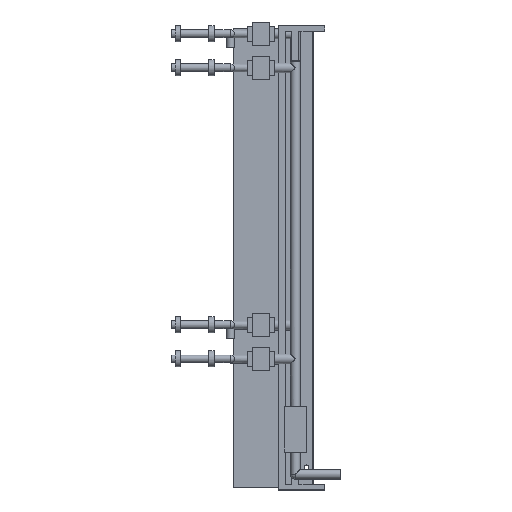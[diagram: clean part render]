
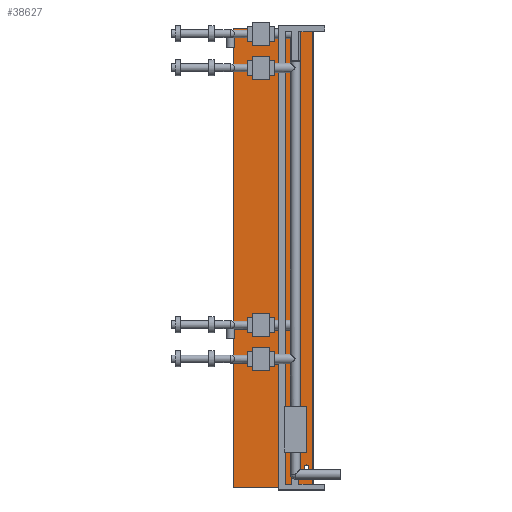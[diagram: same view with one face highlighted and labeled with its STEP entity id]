
A CAD part, top view. The second image highlights one B-rep face of the part: STEP entity #38627.
In plain terms, the highlighted planar face has unit normal (0, 0, 1).
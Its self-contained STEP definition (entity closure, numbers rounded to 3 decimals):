
#38176 = PLANE('',#38177);
#38177 = AXIS2_PLACEMENT_3D('',#38178,#38179,#38180);
#38178 = CARTESIAN_POINT('',(890.5,-788.5,1119.5));
#38179 = DIRECTION('',(-0.,1.,0.));
#38180 = DIRECTION('',(0.,0.,1.));
#38202 = PLANE('',#38203);
#38203 = AXIS2_PLACEMENT_3D('',#38204,#38205,#38206);
#38204 = CARTESIAN_POINT('',(890.5,-788.5,1119.5));
#38205 = DIRECTION('',(1.,0.,-0.));
#38206 = DIRECTION('',(0.,0.,1.));
#38228 = PLANE('',#38229);
#38229 = AXIS2_PLACEMENT_3D('',#38230,#38231,#38232);
#38230 = CARTESIAN_POINT('',(890.5,1228.5,1119.5));
#38231 = DIRECTION('',(-0.,1.,0.));
#38232 = DIRECTION('',(0.,0.,1.));
#38252 = PLANE('',#38253);
#38253 = AXIS2_PLACEMENT_3D('',#38254,#38255,#38256);
#38254 = CARTESIAN_POINT('',(1237.5,-788.5,1119.5));
#38255 = DIRECTION('',(1.,0.,-0.));
#38256 = DIRECTION('',(0.,0.,1.));
#38358 = CYLINDRICAL_SURFACE('',#38359,10.);
#38359 = AXIS2_PLACEMENT_3D('',#38360,#38361,#38362);
#38360 = CARTESIAN_POINT('',(1210.,-700.,1117.));
#38361 = DIRECTION('',(0.,0.,1.));
#38362 = DIRECTION('',(1.,0.,-0.));
#38381 = VERTEX_POINT('',#38382);
#38382 = CARTESIAN_POINT('',(1237.5,-788.5,1119.5));
#38403 = EDGE_CURVE('',#38404,#38381,#38406,.T.);
#38404 = VERTEX_POINT('',#38405);
#38405 = CARTESIAN_POINT('',(890.5,-788.5,1119.5));
#38406 = SURFACE_CURVE('',#38407,(#38411,#38418),.PCURVE_S1.);
#38407 = LINE('',#38408,#38409);
#38408 = CARTESIAN_POINT('',(890.5,-788.5,1119.5));
#38409 = VECTOR('',#38410,1.);
#38410 = DIRECTION('',(1.,0.,-0.));
#38411 = PCURVE('',#38176,#38412);
#38412 = DEFINITIONAL_REPRESENTATION('',(#38413),#38417);
#38413 = LINE('',#38414,#38415);
#38414 = CARTESIAN_POINT('',(0.,0.));
#38415 = VECTOR('',#38416,1.);
#38416 = DIRECTION('',(0.,1.));
#38417 = ( GEOMETRIC_REPRESENTATION_CONTEXT(2) 
PARAMETRIC_REPRESENTATION_CONTEXT() REPRESENTATION_CONTEXT('2D SPACE',''
  ) );
#38418 = PCURVE('',#38419,#38424);
#38419 = PLANE('',#38420);
#38420 = AXIS2_PLACEMENT_3D('',#38421,#38422,#38423);
#38421 = CARTESIAN_POINT('',(890.5,-788.5,1119.5));
#38422 = DIRECTION('',(0.,0.,1.));
#38423 = DIRECTION('',(1.,0.,-0.));
#38424 = DEFINITIONAL_REPRESENTATION('',(#38425),#38429);
#38425 = LINE('',#38426,#38427);
#38426 = CARTESIAN_POINT('',(0.,0.));
#38427 = VECTOR('',#38428,1.);
#38428 = DIRECTION('',(1.,0.));
#38429 = ( GEOMETRIC_REPRESENTATION_CONTEXT(2) 
PARAMETRIC_REPRESENTATION_CONTEXT() REPRESENTATION_CONTEXT('2D SPACE',''
  ) );
#38457 = EDGE_CURVE('',#38381,#38458,#38460,.T.);
#38458 = VERTEX_POINT('',#38459);
#38459 = CARTESIAN_POINT('',(1237.5,1228.5,1119.5));
#38460 = SURFACE_CURVE('',#38461,(#38465,#38472),.PCURVE_S1.);
#38461 = LINE('',#38462,#38463);
#38462 = CARTESIAN_POINT('',(1237.5,-788.5,1119.5));
#38463 = VECTOR('',#38464,1.);
#38464 = DIRECTION('',(-0.,1.,0.));
#38465 = PCURVE('',#38252,#38466);
#38466 = DEFINITIONAL_REPRESENTATION('',(#38467),#38471);
#38467 = LINE('',#38468,#38469);
#38468 = CARTESIAN_POINT('',(0.,0.));
#38469 = VECTOR('',#38470,1.);
#38470 = DIRECTION('',(0.,-1.));
#38471 = ( GEOMETRIC_REPRESENTATION_CONTEXT(2) 
PARAMETRIC_REPRESENTATION_CONTEXT() REPRESENTATION_CONTEXT('2D SPACE',''
  ) );
#38472 = PCURVE('',#38419,#38473);
#38473 = DEFINITIONAL_REPRESENTATION('',(#38474),#38478);
#38474 = LINE('',#38475,#38476);
#38475 = CARTESIAN_POINT('',(347.,0.));
#38476 = VECTOR('',#38477,1.);
#38477 = DIRECTION('',(0.,1.));
#38478 = ( GEOMETRIC_REPRESENTATION_CONTEXT(2) 
PARAMETRIC_REPRESENTATION_CONTEXT() REPRESENTATION_CONTEXT('2D SPACE',''
  ) );
#38506 = EDGE_CURVE('',#38507,#38458,#38509,.T.);
#38507 = VERTEX_POINT('',#38508);
#38508 = CARTESIAN_POINT('',(890.5,1228.5,1119.5));
#38509 = SURFACE_CURVE('',#38510,(#38514,#38521),.PCURVE_S1.);
#38510 = LINE('',#38511,#38512);
#38511 = CARTESIAN_POINT('',(890.5,1228.5,1119.5));
#38512 = VECTOR('',#38513,1.);
#38513 = DIRECTION('',(1.,0.,-0.));
#38514 = PCURVE('',#38228,#38515);
#38515 = DEFINITIONAL_REPRESENTATION('',(#38516),#38520);
#38516 = LINE('',#38517,#38518);
#38517 = CARTESIAN_POINT('',(0.,0.));
#38518 = VECTOR('',#38519,1.);
#38519 = DIRECTION('',(0.,1.));
#38520 = ( GEOMETRIC_REPRESENTATION_CONTEXT(2) 
PARAMETRIC_REPRESENTATION_CONTEXT() REPRESENTATION_CONTEXT('2D SPACE',''
  ) );
#38521 = PCURVE('',#38419,#38522);
#38522 = DEFINITIONAL_REPRESENTATION('',(#38523),#38527);
#38523 = LINE('',#38524,#38525);
#38524 = CARTESIAN_POINT('',(0.,2017.));
#38525 = VECTOR('',#38526,1.);
#38526 = DIRECTION('',(1.,0.));
#38527 = ( GEOMETRIC_REPRESENTATION_CONTEXT(2) 
PARAMETRIC_REPRESENTATION_CONTEXT() REPRESENTATION_CONTEXT('2D SPACE',''
  ) );
#38555 = EDGE_CURVE('',#38404,#38507,#38556,.T.);
#38556 = SURFACE_CURVE('',#38557,(#38561,#38568),.PCURVE_S1.);
#38557 = LINE('',#38558,#38559);
#38558 = CARTESIAN_POINT('',(890.5,-788.5,1119.5));
#38559 = VECTOR('',#38560,1.);
#38560 = DIRECTION('',(-0.,1.,0.));
#38561 = PCURVE('',#38202,#38562);
#38562 = DEFINITIONAL_REPRESENTATION('',(#38563),#38567);
#38563 = LINE('',#38564,#38565);
#38564 = CARTESIAN_POINT('',(0.,0.));
#38565 = VECTOR('',#38566,1.);
#38566 = DIRECTION('',(0.,-1.));
#38567 = ( GEOMETRIC_REPRESENTATION_CONTEXT(2) 
PARAMETRIC_REPRESENTATION_CONTEXT() REPRESENTATION_CONTEXT('2D SPACE',''
  ) );
#38568 = PCURVE('',#38419,#38569);
#38569 = DEFINITIONAL_REPRESENTATION('',(#38570),#38574);
#38570 = LINE('',#38571,#38572);
#38571 = CARTESIAN_POINT('',(0.,0.));
#38572 = VECTOR('',#38573,1.);
#38573 = DIRECTION('',(0.,1.));
#38574 = ( GEOMETRIC_REPRESENTATION_CONTEXT(2) 
PARAMETRIC_REPRESENTATION_CONTEXT() REPRESENTATION_CONTEXT('2D SPACE',''
  ) );
#38581 = EDGE_CURVE('',#38582,#38582,#38584,.T.);
#38582 = VERTEX_POINT('',#38583);
#38583 = CARTESIAN_POINT('',(1220.,-700.,1119.5));
#38584 = SURFACE_CURVE('',#38585,(#38590,#38597),.PCURVE_S1.);
#38585 = CIRCLE('',#38586,10.);
#38586 = AXIS2_PLACEMENT_3D('',#38587,#38588,#38589);
#38587 = CARTESIAN_POINT('',(1210.,-700.,1119.5));
#38588 = DIRECTION('',(0.,0.,1.));
#38589 = DIRECTION('',(1.,0.,-0.));
#38590 = PCURVE('',#38358,#38591);
#38591 = DEFINITIONAL_REPRESENTATION('',(#38592),#38596);
#38592 = LINE('',#38593,#38594);
#38593 = CARTESIAN_POINT('',(0.,2.5));
#38594 = VECTOR('',#38595,1.);
#38595 = DIRECTION('',(1.,0.));
#38596 = ( GEOMETRIC_REPRESENTATION_CONTEXT(2) 
PARAMETRIC_REPRESENTATION_CONTEXT() REPRESENTATION_CONTEXT('2D SPACE',''
  ) );
#38597 = PCURVE('',#38419,#38598);
#38598 = DEFINITIONAL_REPRESENTATION('',(#38599),#38603);
#38599 = CIRCLE('',#38600,10.);
#38600 = AXIS2_PLACEMENT_2D('',#38601,#38602);
#38601 = CARTESIAN_POINT('',(319.5,88.5));
#38602 = DIRECTION('',(1.,0.));
#38603 = ( GEOMETRIC_REPRESENTATION_CONTEXT(2) 
PARAMETRIC_REPRESENTATION_CONTEXT() REPRESENTATION_CONTEXT('2D SPACE',''
  ) );
#38627 = ADVANCED_FACE('',(#38628,#38634),#38419,.T.);
#38628 = FACE_BOUND('',#38629,.T.);
#38629 = EDGE_LOOP('',(#38630,#38631,#38632,#38633));
#38630 = ORIENTED_EDGE('',*,*,#38555,.F.);
#38631 = ORIENTED_EDGE('',*,*,#38403,.T.);
#38632 = ORIENTED_EDGE('',*,*,#38457,.T.);
#38633 = ORIENTED_EDGE('',*,*,#38506,.F.);
#38634 = FACE_BOUND('',#38635,.T.);
#38635 = EDGE_LOOP('',(#38636));
#38636 = ORIENTED_EDGE('',*,*,#38581,.F.);
